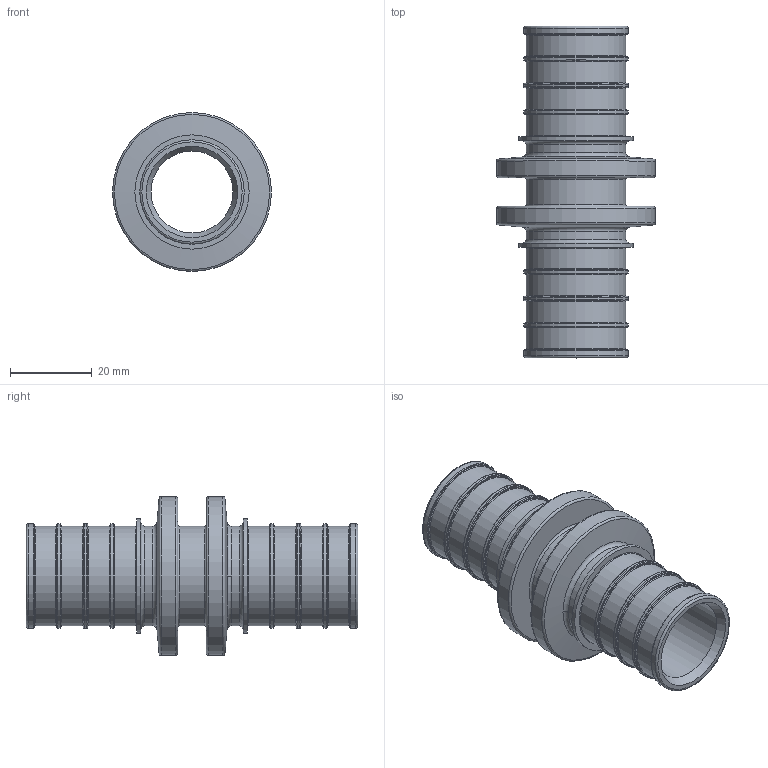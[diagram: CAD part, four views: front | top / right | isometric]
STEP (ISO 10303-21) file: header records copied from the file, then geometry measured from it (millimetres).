
FILE_DESCRIPTION(('STEP AP203'), '1');
FILE_NAME('ÂÐ.716641.017 - VTm.403.G.003232 Ôèò. íàäâ. ïð', '2024-01-23T10:54:27', ('User'), ('Vesta'), 'C3D Converter', 'C3D Toolkit', '');
FILE_SCHEMA(('CONFIG_CONTROL_DESIGN'));
Length unit declared in the file: millimetre
Products named in the file (1): ВР.716641.017
Bounding box: 38.8 x 81 x 38.8 mm (x, y, z)
Volume: 19658.8 mm3; surface area: 15588.7 mm2
Topology: 1 solids, 1 shells, 93 faces, 165 edges, 94 vertices
Faces by surface type: torus 43, cylinder 24, plane 22, cone 4
Full cylindrical faces by diameter (mm): 20 x1, 24.3 x11, 25.5 x8, 27.9 x2, 38.8 x2
Entity records: 1921 total; most frequent: DIRECTION 380, CARTESIAN_POINT 284, ORIENTED_EDGE 192, AXIS2_PLACEMENT_3D 190, EDGE_LOOP 184, FACE_OUTER_BOUND 136, EDGE_CURVE 96, CIRCLE 96
